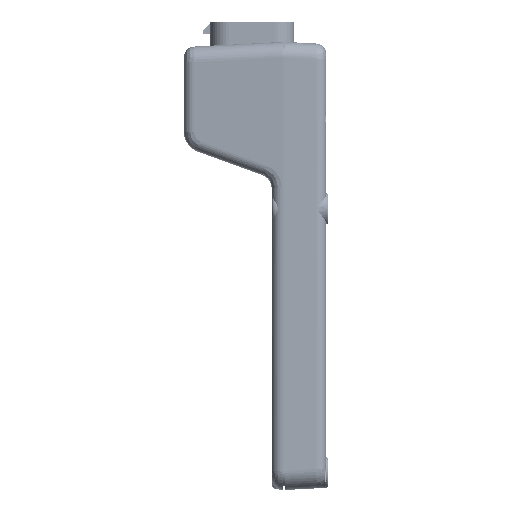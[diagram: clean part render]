
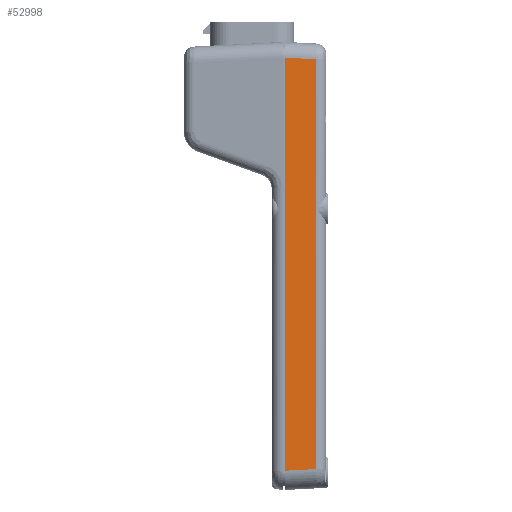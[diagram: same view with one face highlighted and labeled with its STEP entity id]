
A CAD part, left-side view. The second image highlights one B-rep face of the part: STEP entity #52998.
In plain terms, the highlighted planar face has unit normal (-0.999, -0.052, 0).
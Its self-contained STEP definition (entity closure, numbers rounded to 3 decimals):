
#441=PLANE('',#55512);
#3696=VECTOR('',#101447,1.);
#3697=VECTOR('',#101448,1.);
#3698=VECTOR('',#101449,1.);
#3699=VECTOR('',#101450,1.);
#6046=LINE('',#65221,#3696);
#6047=LINE('',#65223,#3697);
#6048=LINE('',#65225,#3698);
#6049=LINE('',#65227,#3699);
#8464=VERTEX_POINT('',#65212);
#8467=VERTEX_POINT('',#65222);
#8468=VERTEX_POINT('',#65224);
#8469=VERTEX_POINT('',#65226);
#20756=EDGE_CURVE('',#8464,#8467,#6046,.T.);
#20757=EDGE_CURVE('',#8467,#8468,#6047,.T.);
#20758=EDGE_CURVE('',#8468,#8469,#6048,.T.);
#20759=EDGE_CURVE('',#8469,#8464,#6049,.T.);
#29534=ORIENTED_EDGE('',*,*,#20756,.T.);
#29535=ORIENTED_EDGE('',*,*,#20757,.T.);
#29536=ORIENTED_EDGE('',*,*,#20758,.T.);
#29537=ORIENTED_EDGE('',*,*,#20759,.T.);
#46954=EDGE_LOOP('',(#29534,#29535,#29536,#29537));
#49976=FACE_BOUND('',#46954,.T.);
#52998=ADVANCED_FACE('',(#49976),#441,.T.);
#55512=AXIS2_PLACEMENT_3D('',#65220,#101446,$);
#65212=CARTESIAN_POINT('',(-80.536,-8.857,-60.543));
#65220=CARTESIAN_POINT('',(-80.768,-4.429,-2.251));
#65221=CARTESIAN_POINT('',(-80.536,-8.857,-60.543));
#65222=CARTESIAN_POINT('',(-80.536,-8.857,56.042));
#65223=CARTESIAN_POINT('',(-80.536,-8.857,56.042));
#65224=CARTESIAN_POINT('',(-81.,0.,56.506));
#65225=CARTESIAN_POINT('',(-81.,0.,56.506));
#65226=CARTESIAN_POINT('',(-81.,0.,-61.008));
#65227=CARTESIAN_POINT('',(-81.,0.,-61.008));
#101446=DIRECTION('',(-0.999,-0.052,0.));
#101447=DIRECTION('',(0.,0.,1.));
#101448=DIRECTION('',(-0.052,0.997,0.052));
#101449=DIRECTION('',(0.,0.,-1.));
#101450=DIRECTION('',(0.052,-0.997,0.052));
